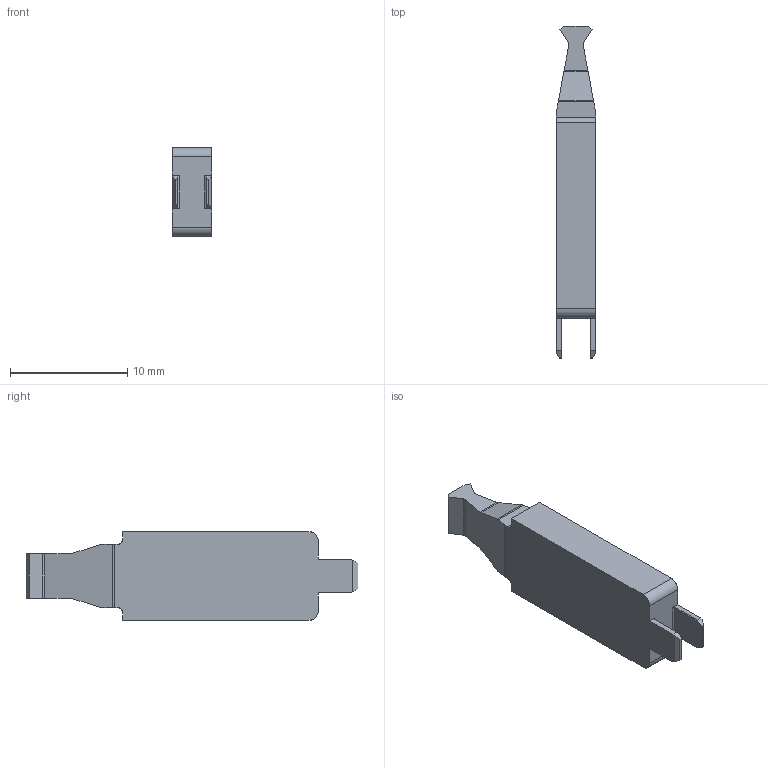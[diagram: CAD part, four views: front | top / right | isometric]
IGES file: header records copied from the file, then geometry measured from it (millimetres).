
Start section: SolidWorks IGES file using analytic representation for surfaces
Global section: file name: C:\3dwork\hanaki\20260217_VALVEŒü‚¯AP-10RECE\3927P-AP-10 RECEPTACLE TERMINAL.IGS; native system: SolidWorks 2023; preprocessor: SolidWorks 2023; author: 08803; date: 260219.185537; units: millimetre
Bounding box: 3.4 x 28.35 x 7.6 mm (x, y, z)
Surface area: 563.3 mm2 (no closed solid volume)
Topology: 0 solids, 0 shells, 60 faces, 381 edges, 381 vertices
Faces by surface type: bspline 40, revolution 20
